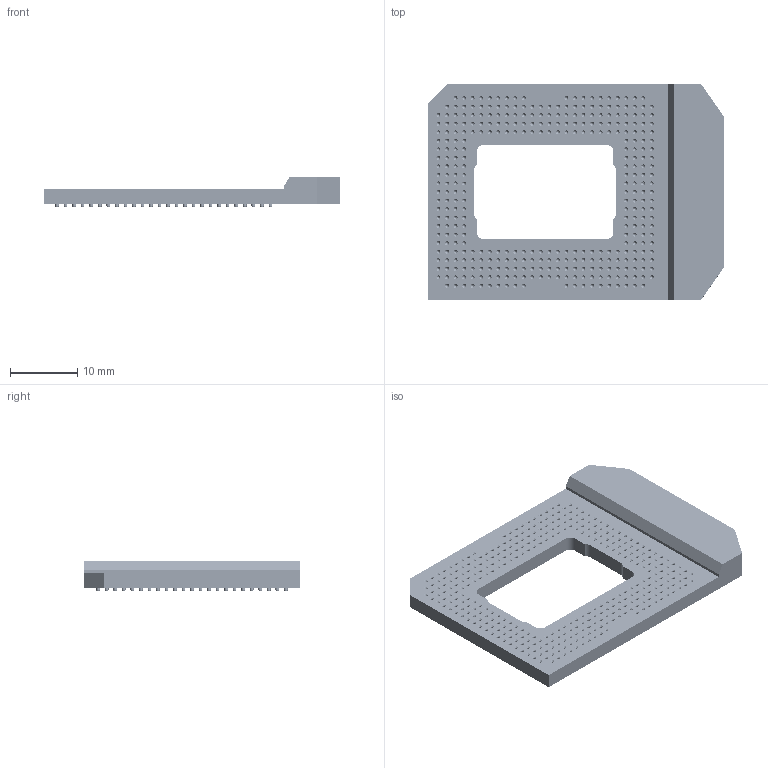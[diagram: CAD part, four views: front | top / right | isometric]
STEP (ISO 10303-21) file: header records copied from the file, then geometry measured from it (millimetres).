
FILE_DESCRIPTION((''),'2;1');
FILE_NAME('C:\Work\Series-600\s600-Socket\2511569-sy-socket-600-2700-Z-1400-350.stp','2010-11-24T09:08:55',('a0130832'),(''),'Autodesk Inventor 2011','Autodesk Inventor 2011','');
FILE_SCHEMA(('AUTOMOTIVE_DESIGN { 1 0 10303 214 1 1 1 1 }'));
Length unit declared in the file: millimetre
Products named in the file (1): 2511569-sy-socket-600-2700-Z-1400-350
Bounding box: 44.2 x 32.2 x 4.6 mm (x, y, z)
Volume: 2911.1 mm3; surface area: 3384.7 mm2
Topology: 1 solids, 1 shells, 2128 faces, 4278 edges, 2502 vertices
Faces by surface type: cylinder 708, cone 700, plane 370, bspline 350
Full cylindrical faces by diameter (mm): 0.305 x350, 0.54 x350
Entity records: 56928 total; most frequent: CARTESIAN_POINT 21859, DIRECTION 7852, ORIENTED_EDGE 4356, EDGE_LOOP 4230, AXIS2_PLACEMENT_3D 3895, EDGE_CURVE 2178, VERTEX_POINT 2152, FACE_OUTER_BOUND 2128
